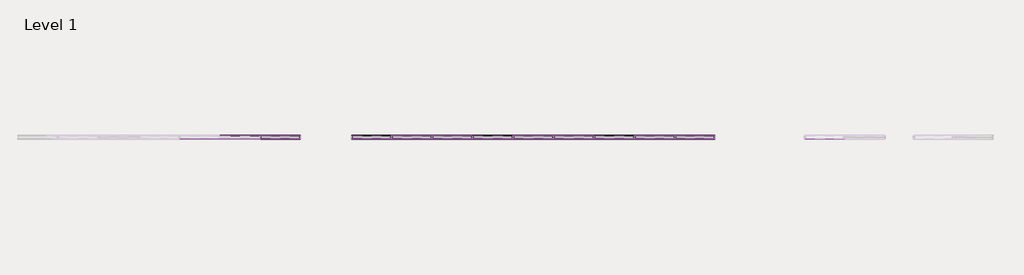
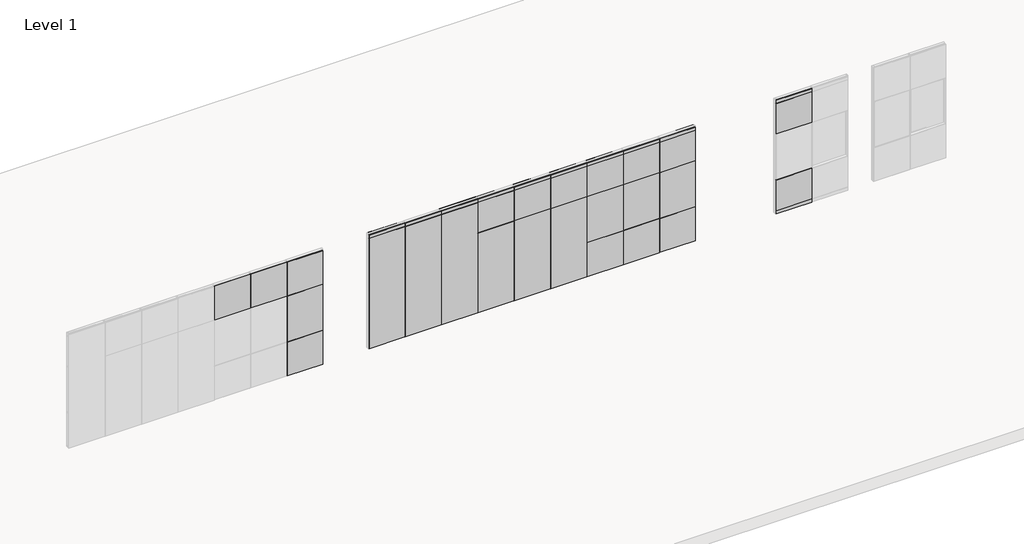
# One storey, part 10 of 22: 107 proxies.
"""IFC4 building model written with IfcOpenShell, lengths in millimetres."""

from ifc_helpers import new_model, si_unit, origin, place, context, project, spatial, transform, mapped, element, save
from components import fascia_teknion_ceiling_and_base_fpb1_836afdf3, fascia_teknion_ceiling_and_base_fpb1_3f1045f8, fascia_teknion_ceiling_and_base_fpb1_9cc94717, fascia_teknion_ceiling_and_base_fpb1_76749516, frame_teknion_horizontal_rail_5872ae1a, frame_teknion_horizontal_rail_46ee653b, level_ii_d92933f0, level_ii_d9937d3a, level_ii_c8f04d20, monolithic_level_i_c985bec4, monolithic_level_i_d7025d32, panel_fascia_teknion_level_i_3c7f3a23, panel_fascia_teknion_level_i_3efb392c, panel_fascia_teknion_level_iii_5cb2406b, panel_fascia_teknion_level_iii_b597021d, segmented_monolithic_level_i_26a9d159, segmented_monolithic_level_i_932c30e3, segmented_level_i_235b6383, segmented_monolithic_level_ii_ef75357c, level_iii_17d9b208, segmented_level_ii_6dac37f0, working_wall_monolithic_level_i_ddfac440, working_wall_monolithic_level_i_759ace73, working_wall_monolithic_level_i_53c92298, working_wall_monolithic_level_i_fab2ca40, level_i_c1e683c6, working_wall_monolithic_level_iii_b79156b4, level_iii_d208549f, level_iii_3557bc1e

model = new_model("IFC4")

# Units and contexts
model_context = context("Model", 3, world=origin())
ifc_project = project(units=[si_unit("LENGTHUNIT", "METRE", prefix="MILLI")], contexts=[model_context])

# Site, building, storey
site = spatial("IfcSite", under=ifc_project)
building = spatial("IfcBuilding", under=site)
storey = spatial("IfcBuildingStorey", under=building, Name="Level 1", Elevation=0.0)

# Proxies
placement = place(None, origin())
fascia_teknion_ceiling_and_base_fpb1_shape = fascia_teknion_ceiling_and_base_fpb1_836afdf3(model_context)
element("IfcBuildingElementProxy", 1, Name="Fascia-Teknion-Ceiling_and_Base : FPB1", ObjectType="Fascia-Teknion-Ceiling_and_Base : FPB1", at=placement, inside=storey, context=model_context, shape_type="MappedRepresentation", body=[
    mapped(fascia_teknion_ceiling_and_base_fpb1_shape, transform((-23828.6184902, 1762.344815, 15.875), x_axis=(1.0, 0.0, 0.0), y_axis=(0.0, 1.0, 0.0), z_axis=(0.0, 0.0, 1.0))),
])
fascia_teknion_ceiling_and_base_fpb1_2_shape = fascia_teknion_ceiling_and_base_fpb1_3f1045f8(model_context)
element("IfcBuildingElementProxy", 2, Name="Fascia-Teknion-Ceiling_and_Base : FPB1", ObjectType="Fascia-Teknion-Ceiling_and_Base : FPB1", at=placement, inside=storey, context=model_context, shape_type="MappedRepresentation", body=[
    mapped(fascia_teknion_ceiling_and_base_fpb1_2_shape, transform((-26761.682899, 1843.3402105, 15.875), x_axis=(-1.0, 0.0, 0.0), y_axis=(0.0, -1.0, 0.0), z_axis=(0.0, 0.0, 1.0))),
])
element("IfcBuildingElementProxy", 3, Name="Fascia-Teknion-Ceiling_and_Base : FPB1", ObjectType="Fascia-Teknion-Ceiling_and_Base : FPB1", at=placement, inside=storey, context=model_context, shape_type="MappedRepresentation", body=[
    mapped(fascia_teknion_ceiling_and_base_fpb1_2_shape, transform((-34062.8930552, 1843.3402105, 15.875), x_axis=(-1.0, 0.0, 0.0), y_axis=(0.0, -1.0, 0.0), z_axis=(0.0, 0.0, 1.0))),
])
fascia_teknion_ceiling_and_base_fpb1_3_shape = fascia_teknion_ceiling_and_base_fpb1_9cc94717(model_context)
element("IfcBuildingElementProxy", 4, Name="Fascia-Teknion-Ceiling_and_Base : FPB1", ObjectType="Fascia-Teknion-Ceiling_and_Base : FPB1", at=placement, inside=storey, context=model_context, shape_type="MappedRepresentation", body=[
    mapped(fascia_teknion_ceiling_and_base_fpb1_3_shape, transform((-33155.4879771, 1843.3402105, 15.875), x_axis=(-1.0, 0.0, 0.0), y_axis=(0.0, -1.0, 0.0), z_axis=(0.0, 0.0, 1.0))),
])
element("IfcBuildingElementProxy", 5, Name="Fascia-Teknion-Ceiling_and_Base : FPB1", ObjectType="Fascia-Teknion-Ceiling_and_Base : FPB1", at=placement, inside=storey, context=model_context, shape_type="MappedRepresentation", body=[
    mapped(fascia_teknion_ceiling_and_base_fpb1_3_shape, transform((-32241.0879771, 1843.3402105, 15.875), x_axis=(-1.0, 0.0, 0.0), y_axis=(0.0, -1.0, 0.0), z_axis=(0.0, 0.0, 1.0))),
])
element("IfcBuildingElementProxy", 6, Name="Fascia-Teknion-Ceiling_and_Base : FPB1", ObjectType="Fascia-Teknion-Ceiling_and_Base : FPB1", at=placement, inside=storey, context=model_context, shape_type="MappedRepresentation", body=[
    mapped(fascia_teknion_ceiling_and_base_fpb1_3_shape, transform((-30412.2879771, 1843.3402105, 15.875), x_axis=(-1.0, 0.0, 0.0), y_axis=(0.0, -1.0, 0.0), z_axis=(0.0, 0.0, 1.0))),
])
element("IfcBuildingElementProxy", 7, Name="Fascia-Teknion-Ceiling_and_Base : FPB1", ObjectType="Fascia-Teknion-Ceiling_and_Base : FPB1", at=placement, inside=storey, context=model_context, shape_type="MappedRepresentation", body=[
    mapped(fascia_teknion_ceiling_and_base_fpb1_3_shape, transform((-29497.8879771, 1843.3402105, 15.875), x_axis=(-1.0, 0.0, 0.0), y_axis=(0.0, -1.0, 0.0), z_axis=(0.0, 0.0, 1.0))),
])
element("IfcBuildingElementProxy", 8, Name="Fascia-Teknion-Ceiling_and_Base : FPB1", ObjectType="Fascia-Teknion-Ceiling_and_Base : FPB1", at=placement, inside=storey, context=model_context, shape_type="MappedRepresentation", body=[
    mapped(fascia_teknion_ceiling_and_base_fpb1_3_shape, transform((-27669.0879771, 1843.3402105, 15.875), x_axis=(-1.0, 0.0, 0.0), y_axis=(0.0, -1.0, 0.0), z_axis=(0.0, 0.0, 1.0))),
])
element("IfcBuildingElementProxy", 9, Name="Fascia-Teknion-Ceiling_and_Base : FPB1", ObjectType="Fascia-Teknion-Ceiling_and_Base : FPB1", at=placement, inside=storey, context=model_context, shape_type="MappedRepresentation", body=[
    mapped(fascia_teknion_ceiling_and_base_fpb1_3_shape, transform((-31326.6879771, 1843.3402105, 15.875), x_axis=(-1.0, 0.0, 0.0), y_axis=(0.0, -1.0, 0.0), z_axis=(0.0, 0.0, 1.0))),
])
element("IfcBuildingElementProxy", 10, Name="Fascia-Teknion-Ceiling_and_Base : FPB1", ObjectType="Fascia-Teknion-Ceiling_and_Base : FPB1", at=placement, inside=storey, context=model_context, shape_type="MappedRepresentation", body=[
    mapped(fascia_teknion_ceiling_and_base_fpb1_3_shape, transform((-28583.4879771, 1843.3402105, 15.875), x_axis=(-1.0, 0.0, 0.0), y_axis=(0.0, -1.0, 0.0), z_axis=(0.0, 0.0, 1.0))),
])
element("IfcBuildingElementProxy", 11, Name="Fascia-Teknion-Ceiling_and_Base : FPC", ObjectType="Fascia-Teknion-Ceiling_and_Base : FPC", at=placement, inside=storey, context=model_context, shape_type="MappedRepresentation", body=[
    mapped(fascia_teknion_ceiling_and_base_fpb1_shape, transform((-23828.6184902, 1762.344815, 2950.845), x_axis=(1.0, 0.0, 0.0), y_axis=(0.0, 1.0, 0.0), z_axis=(0.0, 0.0, 1.0))),
])
element("IfcBuildingElementProxy", 12, Name="Fascia-Teknion-Ceiling_and_Base : FPC", ObjectType="Fascia-Teknion-Ceiling_and_Base : FPC", at=placement, inside=storey, context=model_context, shape_type="MappedRepresentation", body=[
    mapped(fascia_teknion_ceiling_and_base_fpb1_3_shape, transform((-31326.6879771, 1781.3642105, 2950.845), x_axis=(1.0, 0.0, 0.0), y_axis=(0.0, 1.0, 0.0), z_axis=(0.0, 0.0, 1.0))),
])
element("IfcBuildingElementProxy", 13, Name="Fascia-Teknion-Ceiling_and_Base : FPC", ObjectType="Fascia-Teknion-Ceiling_and_Base : FPC", at=placement, inside=storey, context=model_context, shape_type="MappedRepresentation", body=[
    mapped(fascia_teknion_ceiling_and_base_fpb1_3_shape, transform((-30412.2879771, 1781.3642105, 2950.845), x_axis=(1.0, 0.0, 0.0), y_axis=(0.0, 1.0, 0.0), z_axis=(0.0, 0.0, 1.0))),
])
element("IfcBuildingElementProxy", 14, Name="Fascia-Teknion-Ceiling_and_Base : FPC", ObjectType="Fascia-Teknion-Ceiling_and_Base : FPC", at=placement, inside=storey, context=model_context, shape_type="MappedRepresentation", body=[
    mapped(fascia_teknion_ceiling_and_base_fpb1_3_shape, transform((-29497.8879771, 1781.3642105, 2950.845), x_axis=(1.0, 0.0, 0.0), y_axis=(0.0, 1.0, 0.0), z_axis=(0.0, 0.0, 1.0))),
])
element("IfcBuildingElementProxy", 15, Name="Fascia-Teknion-Ceiling_and_Base : FPC", ObjectType="Fascia-Teknion-Ceiling_and_Base : FPC", at=placement, inside=storey, context=model_context, shape_type="MappedRepresentation", body=[
    mapped(fascia_teknion_ceiling_and_base_fpb1_3_shape, transform((-28583.4879771, 1781.3642105, 2950.845), x_axis=(1.0, 0.0, 0.0), y_axis=(0.0, 1.0, 0.0), z_axis=(0.0, 0.0, 1.0))),
])
element("IfcBuildingElementProxy", 16, Name="Fascia-Teknion-Ceiling_and_Base : FPC", ObjectType="Fascia-Teknion-Ceiling_and_Base : FPC", at=placement, inside=storey, context=model_context, shape_type="MappedRepresentation", body=[
    mapped(fascia_teknion_ceiling_and_base_fpb1_3_shape, transform((-27669.0879771, 1781.3642105, 2950.845), x_axis=(1.0, 0.0, 0.0), y_axis=(0.0, 1.0, 0.0), z_axis=(0.0, 0.0, 1.0))),
])
element("IfcBuildingElementProxy", 17, Name="Fascia-Teknion-Ceiling_and_Base : FPC", ObjectType="Fascia-Teknion-Ceiling_and_Base : FPC", at=placement, inside=storey, context=model_context, shape_type="MappedRepresentation", body=[
    mapped(fascia_teknion_ceiling_and_base_fpb1_3_shape, transform((-33155.4879771, 1781.3642105, 2950.845), x_axis=(1.0, 0.0, 0.0), y_axis=(0.0, 1.0, 0.0), z_axis=(0.0, 0.0, 1.0))),
])
element("IfcBuildingElementProxy", 18, Name="Fascia-Teknion-Ceiling_and_Base : FPC", ObjectType="Fascia-Teknion-Ceiling_and_Base : FPC", at=placement, inside=storey, context=model_context, shape_type="MappedRepresentation", body=[
    mapped(fascia_teknion_ceiling_and_base_fpb1_3_shape, transform((-32241.0879771, 1781.3642105, 2950.845), x_axis=(1.0, 0.0, 0.0), y_axis=(0.0, 1.0, 0.0), z_axis=(0.0, 0.0, 1.0))),
])
fascia_teknion_ceiling_and_base_fpb1_4_shape = fascia_teknion_ceiling_and_base_fpb1_76749516(model_context)
element("IfcBuildingElementProxy", 19, Name="Fascia-Teknion-Ceiling_and_Base : FPC", ObjectType="Fascia-Teknion-Ceiling_and_Base : FPC", at=placement, inside=storey, context=model_context, shape_type="MappedRepresentation", body=[
    mapped(fascia_teknion_ceiling_and_base_fpb1_4_shape, transform((-36128.1636663, 1843.3402105, 2950.845), x_axis=(1.0, 0.0, 0.0), y_axis=(0.0, 1.0, 0.0), z_axis=(0.0, 0.0, 1.0))),
])
element("IfcBuildingElementProxy", 20, Name="Fascia-Teknion-Ceiling_and_Base : FPC", ObjectType="Fascia-Teknion-Ceiling_and_Base : FPC", at=placement, inside=storey, context=model_context, shape_type="MappedRepresentation", body=[
    mapped(fascia_teknion_ceiling_and_base_fpb1_2_shape, transform((-26761.682899, 1781.3642105, 2950.845), x_axis=(1.0, 0.0, 0.0), y_axis=(0.0, 1.0, 0.0), z_axis=(0.0, 0.0, 1.0))),
])
element("IfcBuildingElementProxy", 21, Name="Fascia-Teknion-Ceiling_and_Base : FPC", ObjectType="Fascia-Teknion-Ceiling_and_Base : FPC", at=placement, inside=storey, context=model_context, shape_type="MappedRepresentation", body=[
    mapped(fascia_teknion_ceiling_and_base_fpb1_2_shape, transform((-34062.8930552, 1781.3642105, 2950.845), x_axis=(1.0, 0.0, 0.0), y_axis=(0.0, 1.0, 0.0), z_axis=(0.0, 0.0, 1.0))),
])
frame_teknion_horizontal_rail_shape = frame_teknion_horizontal_rail_5872ae1a(model_context)
element("IfcBuildingElementProxy", 22, Name="Frame-Teknion-Horizontal_Rail : FPKK", ObjectType="Frame-Teknion-Horizontal_Rail : FPKK", at=placement, inside=storey, context=model_context, shape_type="MappedRepresentation", body=[
    mapped(frame_teknion_horizontal_rail_shape, transform((-23828.6184902, 1812.351065, 917.575), x_axis=(1.0, 0.0, 0.0), y_axis=(0.0, 1.0, 0.0), z_axis=(0.0, 0.0, 1.0))),
])
element("IfcBuildingElementProxy", 23, Name="Frame-Teknion-Horizontal_Rail : FPKK", ObjectType="Frame-Teknion-Horizontal_Rail : FPKK", at=placement, inside=storey, context=model_context, shape_type="MappedRepresentation", body=[
    mapped(frame_teknion_horizontal_rail_shape, transform((-23828.6184902, 1812.351065, 2136.775), x_axis=(1.0, 0.0, 0.0), y_axis=(0.0, 1.0, 0.0), z_axis=(0.0, 0.0, 1.0))),
])
element("IfcBuildingElementProxy", 24, Name="Frame-Teknion-Horizontal_Rail : FPKK", ObjectType="Frame-Teknion-Horizontal_Rail : FPKK", at=placement, inside=storey, context=model_context, shape_type="MappedRepresentation", body=[
    mapped(frame_teknion_horizontal_rail_shape, transform((-34062.8930552, 1812.3522105, 100.457), x_axis=(1.0, 0.0, 0.0), y_axis=(0.0, 1.0, 0.0), z_axis=(0.0, 0.0, 1.0))),
])
element("IfcBuildingElementProxy", 25, Name="Frame-Teknion-Horizontal_Rail : FPKK", ObjectType="Frame-Teknion-Horizontal_Rail : FPKK", at=placement, inside=storey, context=model_context, shape_type="MappedRepresentation", body=[
    mapped(frame_teknion_horizontal_rail_shape, transform((-34062.8930552, 1812.3522105, 2949.1305), x_axis=(1.0, 0.0, 0.0), y_axis=(0.0, 1.0, 0.0), z_axis=(0.0, 0.0, 1.0))),
])
element("IfcBuildingElementProxy", 26, Name="Frame-Teknion-Horizontal_Rail : FPKK", ObjectType="Frame-Teknion-Horizontal_Rail : FPKK", at=placement, inside=storey, context=model_context, shape_type="MappedRepresentation", body=[
    mapped(frame_teknion_horizontal_rail_shape, transform((-36128.1636663, 1812.3522105, 917.575), x_axis=(1.0, 0.0, 0.0), y_axis=(0.0, 1.0, 0.0), z_axis=(0.0, 0.0, 1.0))),
])
element("IfcBuildingElementProxy", 27, Name="Frame-Teknion-Horizontal_Rail : FPKK", ObjectType="Frame-Teknion-Horizontal_Rail : FPKK", at=placement, inside=storey, context=model_context, shape_type="MappedRepresentation", body=[
    mapped(frame_teknion_horizontal_rail_shape, transform((-36128.1636663, 1812.3522105, 2136.775), x_axis=(1.0, 0.0, 0.0), y_axis=(0.0, 1.0, 0.0), z_axis=(0.0, 0.0, 1.0))),
])
element("IfcBuildingElementProxy", 28, Name="Frame-Teknion-Horizontal_Rail : FPKK", ObjectType="Frame-Teknion-Horizontal_Rail : FPKK", at=placement, inside=storey, context=model_context, shape_type="MappedRepresentation", body=[
    mapped(frame_teknion_horizontal_rail_shape, transform((-36128.1636663, 1812.3522105, 2949.1305), x_axis=(1.0, 0.0, 0.0), y_axis=(0.0, 1.0, 0.0), z_axis=(0.0, 0.0, 1.0))),
])
element("IfcBuildingElementProxy", 29, Name="Frame-Teknion-Horizontal_Rail : FPKK", ObjectType="Frame-Teknion-Horizontal_Rail : FPKK", at=placement, inside=storey, context=model_context, shape_type="MappedRepresentation", body=[
    mapped(frame_teknion_horizontal_rail_shape, transform((-26761.682899, 1812.3522105, 917.575), x_axis=(1.0, 0.0, 0.0), y_axis=(0.0, 1.0, 0.0), z_axis=(0.0, 0.0, 1.0))),
])
element("IfcBuildingElementProxy", 30, Name="Frame-Teknion-Horizontal_Rail : FPKK", ObjectType="Frame-Teknion-Horizontal_Rail : FPKK", at=placement, inside=storey, context=model_context, shape_type="MappedRepresentation", body=[
    mapped(frame_teknion_horizontal_rail_shape, transform((-26761.682899, 1812.3522105, 2136.775), x_axis=(1.0, 0.0, 0.0), y_axis=(0.0, 1.0, 0.0), z_axis=(0.0, 0.0, 1.0))),
])
element("IfcBuildingElementProxy", 31, Name="Frame-Teknion-Horizontal_Rail : FPKK", ObjectType="Frame-Teknion-Horizontal_Rail : FPKK", at=placement, inside=storey, context=model_context, shape_type="MappedRepresentation", body=[
    mapped(frame_teknion_horizontal_rail_shape, transform((-26761.682899, 1812.3522105, 100.457), x_axis=(1.0, 0.0, 0.0), y_axis=(0.0, 1.0, 0.0), z_axis=(0.0, 0.0, 1.0))),
])
element("IfcBuildingElementProxy", 32, Name="Frame-Teknion-Horizontal_Rail : FPKK", ObjectType="Frame-Teknion-Horizontal_Rail : FPKK", at=placement, inside=storey, context=model_context, shape_type="MappedRepresentation", body=[
    mapped(frame_teknion_horizontal_rail_shape, transform((-26761.682899, 1812.3522105, 2949.1305), x_axis=(1.0, 0.0, 0.0), y_axis=(0.0, 1.0, 0.0), z_axis=(0.0, 0.0, 1.0))),
])
frame_teknion_horizontal_rail_2_shape = frame_teknion_horizontal_rail_46ee653b(model_context)
element("IfcBuildingElementProxy", 33, Name="Frame-Teknion-Horizontal_Rail : FPKK", ObjectType="Frame-Teknion-Horizontal_Rail : FPKK", at=placement, inside=storey, context=model_context, shape_type="MappedRepresentation", body=[
    mapped(frame_teknion_horizontal_rail_2_shape, transform((-33155.4879771, 1812.3522105, 2136.775), x_axis=(1.0, 0.0, 0.0), y_axis=(0.0, 1.0, 0.0), z_axis=(0.0, 0.0, 1.0))),
])
element("IfcBuildingElementProxy", 34, Name="Frame-Teknion-Horizontal_Rail : FPKK", ObjectType="Frame-Teknion-Horizontal_Rail : FPKK", at=placement, inside=storey, context=model_context, shape_type="MappedRepresentation", body=[
    mapped(frame_teknion_horizontal_rail_2_shape, transform((-33155.4879771, 1812.3522105, 100.457), x_axis=(1.0, 0.0, 0.0), y_axis=(0.0, 1.0, 0.0), z_axis=(0.0, 0.0, 1.0))),
])
element("IfcBuildingElementProxy", 35, Name="Frame-Teknion-Horizontal_Rail : FPKK", ObjectType="Frame-Teknion-Horizontal_Rail : FPKK", at=placement, inside=storey, context=model_context, shape_type="MappedRepresentation", body=[
    mapped(frame_teknion_horizontal_rail_2_shape, transform((-33155.4879771, 1812.3522105, 2949.1305), x_axis=(1.0, 0.0, 0.0), y_axis=(0.0, 1.0, 0.0), z_axis=(0.0, 0.0, 1.0))),
])
element("IfcBuildingElementProxy", 36, Name="Frame-Teknion-Horizontal_Rail : FPKK", ObjectType="Frame-Teknion-Horizontal_Rail : FPKK", at=placement, inside=storey, context=model_context, shape_type="MappedRepresentation", body=[
    mapped(frame_teknion_horizontal_rail_2_shape, transform((-32241.0879771, 1812.3522105, 917.575), x_axis=(1.0, 0.0, 0.0), y_axis=(0.0, 1.0, 0.0), z_axis=(0.0, 0.0, 1.0))),
])
element("IfcBuildingElementProxy", 37, Name="Frame-Teknion-Horizontal_Rail : FPKK", ObjectType="Frame-Teknion-Horizontal_Rail : FPKK", at=placement, inside=storey, context=model_context, shape_type="MappedRepresentation", body=[
    mapped(frame_teknion_horizontal_rail_2_shape, transform((-32241.0879771, 1812.3522105, 2136.775), x_axis=(1.0, 0.0, 0.0), y_axis=(0.0, 1.0, 0.0), z_axis=(0.0, 0.0, 1.0))),
])
element("IfcBuildingElementProxy", 38, Name="Frame-Teknion-Horizontal_Rail : FPKK", ObjectType="Frame-Teknion-Horizontal_Rail : FPKK", at=placement, inside=storey, context=model_context, shape_type="MappedRepresentation", body=[
    mapped(frame_teknion_horizontal_rail_2_shape, transform((-32241.0879771, 1812.3522105, 100.457), x_axis=(1.0, 0.0, 0.0), y_axis=(0.0, 1.0, 0.0), z_axis=(0.0, 0.0, 1.0))),
])
element("IfcBuildingElementProxy", 39, Name="Frame-Teknion-Horizontal_Rail : FPKK", ObjectType="Frame-Teknion-Horizontal_Rail : FPKK", at=placement, inside=storey, context=model_context, shape_type="MappedRepresentation", body=[
    mapped(frame_teknion_horizontal_rail_2_shape, transform((-32241.0879771, 1812.3522105, 2949.1305), x_axis=(1.0, 0.0, 0.0), y_axis=(0.0, 1.0, 0.0), z_axis=(0.0, 0.0, 1.0))),
])
element("IfcBuildingElementProxy", 40, Name="Frame-Teknion-Horizontal_Rail : FPKK", ObjectType="Frame-Teknion-Horizontal_Rail : FPKK", at=placement, inside=storey, context=model_context, shape_type="MappedRepresentation", body=[
    mapped(frame_teknion_horizontal_rail_2_shape, transform((-31326.6879771, 1812.3522105, 2136.775), x_axis=(1.0, 0.0, 0.0), y_axis=(0.0, 1.0, 0.0), z_axis=(0.0, 0.0, 1.0))),
])
element("IfcBuildingElementProxy", 41, Name="Frame-Teknion-Horizontal_Rail : FPKK", ObjectType="Frame-Teknion-Horizontal_Rail : FPKK", at=placement, inside=storey, context=model_context, shape_type="MappedRepresentation", body=[
    mapped(frame_teknion_horizontal_rail_2_shape, transform((-31326.6879771, 1812.3522105, 100.457), x_axis=(1.0, 0.0, 0.0), y_axis=(0.0, 1.0, 0.0), z_axis=(0.0, 0.0, 1.0))),
])
element("IfcBuildingElementProxy", 42, Name="Frame-Teknion-Horizontal_Rail : FPKK", ObjectType="Frame-Teknion-Horizontal_Rail : FPKK", at=placement, inside=storey, context=model_context, shape_type="MappedRepresentation", body=[
    mapped(frame_teknion_horizontal_rail_2_shape, transform((-31326.6879771, 1812.3522105, 2949.1305), x_axis=(1.0, 0.0, 0.0), y_axis=(0.0, 1.0, 0.0), z_axis=(0.0, 0.0, 1.0))),
])
element("IfcBuildingElementProxy", 43, Name="Frame-Teknion-Horizontal_Rail : FPKK", ObjectType="Frame-Teknion-Horizontal_Rail : FPKK", at=placement, inside=storey, context=model_context, shape_type="MappedRepresentation", body=[
    mapped(frame_teknion_horizontal_rail_2_shape, transform((-30412.2879771, 1812.3522105, 2136.775), x_axis=(1.0, 0.0, 0.0), y_axis=(0.0, 1.0, 0.0), z_axis=(0.0, 0.0, 1.0))),
])
element("IfcBuildingElementProxy", 44, Name="Frame-Teknion-Horizontal_Rail : FPKK", ObjectType="Frame-Teknion-Horizontal_Rail : FPKK", at=placement, inside=storey, context=model_context, shape_type="MappedRepresentation", body=[
    mapped(frame_teknion_horizontal_rail_2_shape, transform((-30412.2879771, 1812.3522105, 100.457), x_axis=(1.0, 0.0, 0.0), y_axis=(0.0, 1.0, 0.0), z_axis=(0.0, 0.0, 1.0))),
])
element("IfcBuildingElementProxy", 45, Name="Frame-Teknion-Horizontal_Rail : FPKK", ObjectType="Frame-Teknion-Horizontal_Rail : FPKK", at=placement, inside=storey, context=model_context, shape_type="MappedRepresentation", body=[
    mapped(frame_teknion_horizontal_rail_2_shape, transform((-30412.2879771, 1812.3522105, 2949.1305), x_axis=(1.0, 0.0, 0.0), y_axis=(0.0, 1.0, 0.0), z_axis=(0.0, 0.0, 1.0))),
])
element("IfcBuildingElementProxy", 46, Name="Frame-Teknion-Horizontal_Rail : FPKK", ObjectType="Frame-Teknion-Horizontal_Rail : FPKK", at=placement, inside=storey, context=model_context, shape_type="MappedRepresentation", body=[
    mapped(frame_teknion_horizontal_rail_2_shape, transform((-29497.8879771, 1812.3522105, 917.575), x_axis=(1.0, 0.0, 0.0), y_axis=(0.0, 1.0, 0.0), z_axis=(0.0, 0.0, 1.0))),
])
element("IfcBuildingElementProxy", 47, Name="Frame-Teknion-Horizontal_Rail : FPKK", ObjectType="Frame-Teknion-Horizontal_Rail : FPKK", at=placement, inside=storey, context=model_context, shape_type="MappedRepresentation", body=[
    mapped(frame_teknion_horizontal_rail_2_shape, transform((-29497.8879771, 1812.3522105, 2136.775), x_axis=(1.0, 0.0, 0.0), y_axis=(0.0, 1.0, 0.0), z_axis=(0.0, 0.0, 1.0))),
])
element("IfcBuildingElementProxy", 48, Name="Frame-Teknion-Horizontal_Rail : FPKK", ObjectType="Frame-Teknion-Horizontal_Rail : FPKK", at=placement, inside=storey, context=model_context, shape_type="MappedRepresentation", body=[
    mapped(frame_teknion_horizontal_rail_2_shape, transform((-29497.8879771, 1812.3522105, 100.457), x_axis=(1.0, 0.0, 0.0), y_axis=(0.0, 1.0, 0.0), z_axis=(0.0, 0.0, 1.0))),
])
element("IfcBuildingElementProxy", 49, Name="Frame-Teknion-Horizontal_Rail : FPKK", ObjectType="Frame-Teknion-Horizontal_Rail : FPKK", at=placement, inside=storey, context=model_context, shape_type="MappedRepresentation", body=[
    mapped(frame_teknion_horizontal_rail_2_shape, transform((-29497.8879771, 1812.3522105, 2949.1305), x_axis=(1.0, 0.0, 0.0), y_axis=(0.0, 1.0, 0.0), z_axis=(0.0, 0.0, 1.0))),
])
element("IfcBuildingElementProxy", 50, Name="Frame-Teknion-Horizontal_Rail : FPKK", ObjectType="Frame-Teknion-Horizontal_Rail : FPKK", at=placement, inside=storey, context=model_context, shape_type="MappedRepresentation", body=[
    mapped(frame_teknion_horizontal_rail_2_shape, transform((-28583.4879771, 1812.3522105, 917.575), x_axis=(1.0, 0.0, 0.0), y_axis=(0.0, 1.0, 0.0), z_axis=(0.0, 0.0, 1.0))),
])
element("IfcBuildingElementProxy", 51, Name="Frame-Teknion-Horizontal_Rail : FPKK", ObjectType="Frame-Teknion-Horizontal_Rail : FPKK", at=placement, inside=storey, context=model_context, shape_type="MappedRepresentation", body=[
    mapped(frame_teknion_horizontal_rail_2_shape, transform((-28583.4879771, 1812.3522105, 2136.775), x_axis=(1.0, 0.0, 0.0), y_axis=(0.0, 1.0, 0.0), z_axis=(0.0, 0.0, 1.0))),
])
element("IfcBuildingElementProxy", 52, Name="Frame-Teknion-Horizontal_Rail : FPKK", ObjectType="Frame-Teknion-Horizontal_Rail : FPKK", at=placement, inside=storey, context=model_context, shape_type="MappedRepresentation", body=[
    mapped(frame_teknion_horizontal_rail_2_shape, transform((-28583.4879771, 1812.3522105, 100.457), x_axis=(1.0, 0.0, 0.0), y_axis=(0.0, 1.0, 0.0), z_axis=(0.0, 0.0, 1.0))),
])
element("IfcBuildingElementProxy", 53, Name="Frame-Teknion-Horizontal_Rail : FPKK", ObjectType="Frame-Teknion-Horizontal_Rail : FPKK", at=placement, inside=storey, context=model_context, shape_type="MappedRepresentation", body=[
    mapped(frame_teknion_horizontal_rail_2_shape, transform((-28583.4879771, 1812.3522105, 2949.1305), x_axis=(1.0, 0.0, 0.0), y_axis=(0.0, 1.0, 0.0), z_axis=(0.0, 0.0, 1.0))),
])
element("IfcBuildingElementProxy", 54, Name="Frame-Teknion-Horizontal_Rail : FPKK", ObjectType="Frame-Teknion-Horizontal_Rail : FPKK", at=placement, inside=storey, context=model_context, shape_type="MappedRepresentation", body=[
    mapped(frame_teknion_horizontal_rail_2_shape, transform((-27669.0879771, 1812.3522105, 917.575), x_axis=(1.0, 0.0, 0.0), y_axis=(0.0, 1.0, 0.0), z_axis=(0.0, 0.0, 1.0))),
])
element("IfcBuildingElementProxy", 55, Name="Frame-Teknion-Horizontal_Rail : FPKK", ObjectType="Frame-Teknion-Horizontal_Rail : FPKK", at=placement, inside=storey, context=model_context, shape_type="MappedRepresentation", body=[
    mapped(frame_teknion_horizontal_rail_2_shape, transform((-27669.0879771, 1812.3522105, 2136.775), x_axis=(1.0, 0.0, 0.0), y_axis=(0.0, 1.0, 0.0), z_axis=(0.0, 0.0, 1.0))),
])
element("IfcBuildingElementProxy", 56, Name="Frame-Teknion-Horizontal_Rail : FPKK", ObjectType="Frame-Teknion-Horizontal_Rail : FPKK", at=placement, inside=storey, context=model_context, shape_type="MappedRepresentation", body=[
    mapped(frame_teknion_horizontal_rail_2_shape, transform((-27669.0879771, 1812.3522105, 100.457), x_axis=(1.0, 0.0, 0.0), y_axis=(0.0, 1.0, 0.0), z_axis=(0.0, 0.0, 1.0))),
])
element("IfcBuildingElementProxy", 57, Name="Frame-Teknion-Horizontal_Rail : FPKK", ObjectType="Frame-Teknion-Horizontal_Rail : FPKK", at=placement, inside=storey, context=model_context, shape_type="MappedRepresentation", body=[
    mapped(frame_teknion_horizontal_rail_2_shape, transform((-27669.0879771, 1812.3522105, 2949.1305), x_axis=(1.0, 0.0, 0.0), y_axis=(0.0, 1.0, 0.0), z_axis=(0.0, 0.0, 1.0))),
])
level_ii_shape = level_ii_d92933f0(model_context)
element("IfcBuildingElementProxy", 58, Name="Panel-Fascia-Teknion-Altos-Standard : Level II", ObjectType="Panel-Fascia-Teknion-Altos-Standard : Level II", at=placement, inside=storey, context=model_context, shape_type="MappedRepresentation", body=[
    mapped(level_ii_shape, transform((-36128.1636663, 1852.8652105, 917.575), x_axis=(1.0, 0.0, 0.0), y_axis=(0.0, 1.0, 0.0), z_axis=(0.0, 0.0, 1.0))),
])
level_ii_2_shape = level_ii_d9937d3a(model_context)
element("IfcBuildingElementProxy", 59, Name="Panel-Fascia-Teknion-Altos-Standard : Level II", ObjectType="Panel-Fascia-Teknion-Altos-Standard : Level II", at=placement, inside=storey, context=model_context, shape_type="MappedRepresentation", body=[
    mapped(level_ii_2_shape, transform((-36128.1636663, 1771.8392105, 917.575), x_axis=(1.0, 0.0, 0.0), y_axis=(0.0, 1.0, 0.0), z_axis=(0.0, 0.0, 1.0))),
])
element("IfcBuildingElementProxy", 60, Name="Panel-Fascia-Teknion-Altos-Standard : Level II", ObjectType="Panel-Fascia-Teknion-Altos-Standard : Level II", at=placement, inside=storey, context=model_context, shape_type="MappedRepresentation", body=[
    mapped(level_ii_2_shape, transform((-26761.682899, 1771.8392105, 917.575), x_axis=(1.0, 0.0, 0.0), y_axis=(0.0, 1.0, 0.0), z_axis=(0.0, 0.0, 1.0))),
])
element("IfcBuildingElementProxy", 61, Name="Panel-Fascia-Teknion-Altos-Standard : Level II", ObjectType="Panel-Fascia-Teknion-Altos-Standard : Level II", at=placement, inside=storey, context=model_context, shape_type="MappedRepresentation", body=[
    mapped(level_ii_2_shape, transform((-26761.682899, 1852.8652105, 917.575), x_axis=(-1.0, 0.0, 0.0), y_axis=(0.0, -1.0, 0.0), z_axis=(0.0, 0.0, 1.0))),
])
level_ii_3_shape = level_ii_c8f04d20(model_context)
element("IfcBuildingElementProxy", 62, Name="Panel-Fascia-Teknion-Altos-Standard : Level II", ObjectType="Panel-Fascia-Teknion-Altos-Standard : Level II", at=placement, inside=storey, context=model_context, shape_type="MappedRepresentation", body=[
    mapped(level_ii_3_shape, transform((-27669.0879771, 1771.8392105, 917.575), x_axis=(1.0, 0.0, 0.0), y_axis=(0.0, 1.0, 0.0), z_axis=(0.0, 0.0, 1.0))),
])
element("IfcBuildingElementProxy", 63, Name="Panel-Fascia-Teknion-Altos-Standard : Level II", ObjectType="Panel-Fascia-Teknion-Altos-Standard : Level II", at=placement, inside=storey, context=model_context, shape_type="MappedRepresentation", body=[
    mapped(level_ii_3_shape, transform((-32241.0879771, 1852.8652105, 917.575), x_axis=(-1.0, 0.0, 0.0), y_axis=(0.0, -1.0, 0.0), z_axis=(0.0, 0.0, 1.0))),
])
element("IfcBuildingElementProxy", 64, Name="Panel-Fascia-Teknion-Altos-Standard : Level II", ObjectType="Panel-Fascia-Teknion-Altos-Standard : Level II", at=placement, inside=storey, context=model_context, shape_type="MappedRepresentation", body=[
    mapped(level_ii_3_shape, transform((-29497.8879771, 1852.8652105, 917.575), x_axis=(-1.0, 0.0, 0.0), y_axis=(0.0, -1.0, 0.0), z_axis=(0.0, 0.0, 1.0))),
])
element("IfcBuildingElementProxy", 65, Name="Panel-Fascia-Teknion-Altos-Standard : Level II", ObjectType="Panel-Fascia-Teknion-Altos-Standard : Level II", at=placement, inside=storey, context=model_context, shape_type="MappedRepresentation", body=[
    mapped(level_ii_3_shape, transform((-28583.4879771, 1771.8392105, 917.575), x_axis=(1.0, 0.0, 0.0), y_axis=(0.0, 1.0, 0.0), z_axis=(0.0, 0.0, 1.0))),
])
monolithic_level_i_shape = monolithic_level_i_c985bec4(model_context)
element("IfcBuildingElementProxy", 66, Name="Panel-Fascia-Teknion-Altos-Standard : Monolithic Level I", ObjectType="Panel-Fascia-Teknion-Altos-Standard : Monolithic Level I", at=placement, inside=storey, context=model_context, shape_type="MappedRepresentation", body=[
    mapped(monolithic_level_i_shape, transform((-34062.8930552, 1771.8392105, 12.7), x_axis=(1.0, 0.0, 0.0), y_axis=(0.0, 1.0, 0.0), z_axis=(0.0, 0.0, 1.0))),
])
element("IfcBuildingElementProxy", 67, Name="Panel-Fascia-Teknion-Altos-Standard : Monolithic Level I", ObjectType="Panel-Fascia-Teknion-Altos-Standard : Monolithic Level I", at=placement, inside=storey, context=model_context, shape_type="MappedRepresentation", body=[
    mapped(monolithic_level_i_shape, transform((-34062.8930552, 1852.8652105, 100.457), x_axis=(-1.0, 0.0, 0.0), y_axis=(0.0, -1.0, 0.0), z_axis=(0.0, 0.0, 1.0))),
])
monolithic_level_i_2_shape = monolithic_level_i_d7025d32(model_context)
element("IfcBuildingElementProxy", 68, Name="Panel-Fascia-Teknion-Altos-Standard : Monolithic Level I", ObjectType="Panel-Fascia-Teknion-Altos-Standard : Monolithic Level I", at=placement, inside=storey, context=model_context, shape_type="MappedRepresentation", body=[
    mapped(monolithic_level_i_2_shape, transform((-33155.4879771, 1771.8392105, 12.7), x_axis=(1.0, 0.0, 0.0), y_axis=(0.0, 1.0, 0.0), z_axis=(0.0, 0.0, 1.0))),
])
element("IfcBuildingElementProxy", 69, Name="Panel-Fascia-Teknion-Altos-Standard : Monolithic Level I", ObjectType="Panel-Fascia-Teknion-Altos-Standard : Monolithic Level I", at=placement, inside=storey, context=model_context, shape_type="MappedRepresentation", body=[
    mapped(monolithic_level_i_2_shape, transform((-32241.0879771, 1771.8392105, 12.7), x_axis=(1.0, 0.0, 0.0), y_axis=(0.0, 1.0, 0.0), z_axis=(0.0, 0.0, 1.0))),
])
element("IfcBuildingElementProxy", 70, Name="Panel-Fascia-Teknion-Altos-Standard : Monolithic Level I", ObjectType="Panel-Fascia-Teknion-Altos-Standard : Monolithic Level I", at=placement, inside=storey, context=model_context, shape_type="MappedRepresentation", body=[
    mapped(monolithic_level_i_2_shape, transform((-31326.6879771, 1852.8652105, 100.457), x_axis=(-1.0, 0.0, 0.0), y_axis=(0.0, -1.0, 0.0), z_axis=(0.0, 0.0, 1.0))),
])
element("IfcBuildingElementProxy", 71, Name="Panel-Fascia-Teknion-Altos-Standard : Monolithic Level I", ObjectType="Panel-Fascia-Teknion-Altos-Standard : Monolithic Level I", at=placement, inside=storey, context=model_context, shape_type="MappedRepresentation", body=[
    mapped(monolithic_level_i_2_shape, transform((-28583.4879771, 1852.8652105, 100.457), x_axis=(-1.0, 0.0, 0.0), y_axis=(0.0, -1.0, 0.0), z_axis=(0.0, 0.0, 1.0))),
])
panel_fascia_teknion_level_i_shape = panel_fascia_teknion_level_i_3c7f3a23(model_context)
element("IfcBuildingElementProxy", 72, Name="Panel-Fascia-Teknion : Level I", ObjectType="Panel-Fascia-Teknion : Level I", at=placement, inside=storey, context=model_context, shape_type="MappedRepresentation", body=[
    mapped(panel_fascia_teknion_level_i_shape, transform((-23828.6184902, 1771.869815, 100.457), x_axis=(1.0, 0.0, 0.0), y_axis=(0.0, 1.0, 0.0), z_axis=(0.0, 0.0, 1.0))),
])
panel_fascia_teknion_level_i_2_shape = panel_fascia_teknion_level_i_3efb392c(model_context)
element("IfcBuildingElementProxy", 73, Name="Panel-Fascia-Teknion : Level I", ObjectType="Panel-Fascia-Teknion : Level I", at=placement, inside=storey, context=model_context, shape_type="MappedRepresentation", body=[
    mapped(panel_fascia_teknion_level_i_2_shape, transform((-23828.6184902, 1852.832315, 100.457), x_axis=(1.0, 0.0, 0.0), y_axis=(0.0, 1.0, 0.0), z_axis=(0.0, 0.0, 1.0))),
])
panel_fascia_teknion_level_iii_shape = panel_fascia_teknion_level_iii_5cb2406b(model_context)
element("IfcBuildingElementProxy", 74, Name="Panel-Fascia-Teknion : Level III", ObjectType="Panel-Fascia-Teknion : Level III", at=placement, inside=storey, context=model_context, shape_type="MappedRepresentation", body=[
    mapped(panel_fascia_teknion_level_iii_shape, transform((-23828.6184902, 1771.869815, 2136.775), x_axis=(1.0, 0.0, 0.0), y_axis=(0.0, 1.0, 0.0), z_axis=(0.0, 0.0, 1.0))),
])
panel_fascia_teknion_level_iii_2_shape = panel_fascia_teknion_level_iii_b597021d(model_context)
element("IfcBuildingElementProxy", 75, Name="Panel-Fascia-Teknion : Level III", ObjectType="Panel-Fascia-Teknion : Level III", at=placement, inside=storey, context=model_context, shape_type="MappedRepresentation", body=[
    mapped(panel_fascia_teknion_level_iii_2_shape, transform((-23828.6184902, 1852.832315, 2136.775), x_axis=(1.0, 0.0, 0.0), y_axis=(0.0, 1.0, 0.0), z_axis=(0.0, 0.0, 1.0))),
])
segmented_monolithic_level_i_shape = segmented_monolithic_level_i_26a9d159(model_context)
element("IfcBuildingElementProxy", 76, Name="Panel-Fascia-Teknion-Altos-Standard : Segmented Monolithic Level I", ObjectType="Panel-Fascia-Teknion-Altos-Standard : Segmented Monolithic Level I", at=placement, inside=storey, context=model_context, shape_type="MappedRepresentation", body=[
    mapped(segmented_monolithic_level_i_shape, transform((-30412.2879771, 1771.8392105, 12.7), x_axis=(1.0, 0.0, 0.0), y_axis=(0.0, 1.0, 0.0), z_axis=(0.0, 0.0, 1.0))),
])
element("IfcBuildingElementProxy", 77, Name="Panel-Fascia-Teknion-Altos-Standard : Segmented Monolithic Level I", ObjectType="Panel-Fascia-Teknion-Altos-Standard : Segmented Monolithic Level I", at=placement, inside=storey, context=model_context, shape_type="MappedRepresentation", body=[
    mapped(segmented_monolithic_level_i_shape, transform((-29497.8879771, 1771.8392105, 12.7), x_axis=(1.0, 0.0, 0.0), y_axis=(0.0, 1.0, 0.0), z_axis=(0.0, 0.0, 1.0))),
])
element("IfcBuildingElementProxy", 78, Name="Panel-Fascia-Teknion-Altos-Standard : Segmented Monolithic Level I", ObjectType="Panel-Fascia-Teknion-Altos-Standard : Segmented Monolithic Level I", at=placement, inside=storey, context=model_context, shape_type="MappedRepresentation", body=[
    mapped(segmented_monolithic_level_i_shape, transform((-31326.6879771, 1771.8392105, 12.7), x_axis=(1.0, 0.0, 0.0), y_axis=(0.0, 1.0, 0.0), z_axis=(0.0, 0.0, 1.0))),
])
segmented_monolithic_level_i_2_shape = segmented_monolithic_level_i_932c30e3(model_context)
element("IfcBuildingElementProxy", 79, Name="Panel-Fascia-Teknion-Altos-Standard : Segmented Monolithic Level I", ObjectType="Panel-Fascia-Teknion-Altos-Standard : Segmented Monolithic Level I", at=placement, inside=storey, context=model_context, shape_type="MappedRepresentation", body=[
    mapped(segmented_monolithic_level_i_2_shape, transform((-37035.5687444, 1852.8652105, 12.7), x_axis=(1.0, 0.0, 0.0), y_axis=(0.0, 1.0, 0.0), z_axis=(0.0, 0.0, 1.0))),
])
segmented_level_i_shape = segmented_level_i_235b6383(model_context)
element("IfcBuildingElementProxy", 80, Name="Panel-Fascia-Teknion-Altos-Standard : Segmented Monolithic Level I", ObjectType="Panel-Fascia-Teknion-Altos-Standard : Segmented Monolithic Level I", at=placement, inside=storey, context=model_context, shape_type="MappedRepresentation", body=[
    mapped(segmented_level_i_shape, transform((-33155.4879771, 1852.8652105, 100.457), x_axis=(-1.0, 0.0, 0.0), y_axis=(0.0, -1.0, 0.0), z_axis=(0.0, 0.0, 1.0))),
])
element("IfcBuildingElementProxy", 81, Name="Panel-Fascia-Teknion-Altos-Standard : Segmented Monolithic Level I", ObjectType="Panel-Fascia-Teknion-Altos-Standard : Segmented Monolithic Level I", at=placement, inside=storey, context=model_context, shape_type="MappedRepresentation", body=[
    mapped(segmented_level_i_shape, transform((-30412.2879771, 1852.8652105, 100.457), x_axis=(-1.0, 0.0, 0.0), y_axis=(0.0, -1.0, 0.0), z_axis=(0.0, 0.0, 1.0))),
])
element("IfcBuildingElementProxy", 82, Name="Panel-Fascia-Teknion-Altos-Standard : Segmented Monolithic Level I", ObjectType="Panel-Fascia-Teknion-Altos-Standard : Segmented Monolithic Level I", at=placement, inside=storey, context=model_context, shape_type="MappedRepresentation", body=[
    mapped(segmented_level_i_shape, transform((-27669.0879771, 1852.8652105, 100.457), x_axis=(-1.0, 0.0, 0.0), y_axis=(0.0, -1.0, 0.0), z_axis=(0.0, 0.0, 1.0))),
])
segmented_monolithic_level_ii_shape = segmented_monolithic_level_ii_ef75357c(model_context)
element("IfcBuildingElementProxy", 83, Name="Panel-Fascia-Teknion-Altos-Standard : Segmented Monolithic Level II", ObjectType="Panel-Fascia-Teknion-Altos-Standard : Segmented Monolithic Level II", at=placement, inside=storey, context=model_context, shape_type="MappedRepresentation", body=[
    mapped(segmented_monolithic_level_ii_shape, transform((-33155.4879771, 1852.8652105, 2136.775), x_axis=(-1.0, 0.0, 0.0), y_axis=(0.0, -1.0, 0.0), z_axis=(0.0, 0.0, 1.0))),
])
element("IfcBuildingElementProxy", 84, Name="Panel-Fascia-Teknion-Altos-Standard : Segmented Monolithic Level II", ObjectType="Panel-Fascia-Teknion-Altos-Standard : Segmented Monolithic Level II", at=placement, inside=storey, context=model_context, shape_type="MappedRepresentation", body=[
    mapped(segmented_monolithic_level_ii_shape, transform((-30412.2879771, 1852.8652105, 2136.775), x_axis=(-1.0, 0.0, 0.0), y_axis=(0.0, -1.0, 0.0), z_axis=(0.0, 0.0, 1.0))),
])
element("IfcBuildingElementProxy", 85, Name="Panel-Fascia-Teknion-Altos-Standard : Segmented Monolithic Level II", ObjectType="Panel-Fascia-Teknion-Altos-Standard : Segmented Monolithic Level II", at=placement, inside=storey, context=model_context, shape_type="MappedRepresentation", body=[
    mapped(segmented_monolithic_level_ii_shape, transform((-27669.0879771, 1852.8652105, 2136.775), x_axis=(-1.0, 0.0, 0.0), y_axis=(0.0, -1.0, 0.0), z_axis=(0.0, 0.0, 1.0))),
])
level_iii_shape = level_iii_17d9b208(model_context)
element("IfcBuildingElementProxy", 86, Name="Panel-Fascia-Teknion-Altos-Standard : Segmented Monolithic Level II", ObjectType="Panel-Fascia-Teknion-Altos-Standard : Segmented Monolithic Level II", at=placement, inside=storey, context=model_context, shape_type="MappedRepresentation", body=[
    mapped(level_iii_shape, transform((-37035.5687444, 1852.8652105, 2136.775), x_axis=(1.0, 0.0, 0.0), y_axis=(0.0, 1.0, 0.0), z_axis=(0.0, 0.0, 1.0))),
])
segmented_level_ii_shape = segmented_level_ii_6dac37f0(model_context)
element("IfcBuildingElementProxy", 87, Name="Panel-Fascia-Teknion-Altos-Standard : Segmented Monolithic Level II", ObjectType="Panel-Fascia-Teknion-Altos-Standard : Segmented Monolithic Level II", at=placement, inside=storey, context=model_context, shape_type="MappedRepresentation", body=[
    mapped(segmented_level_ii_shape, transform((-29497.8879771, 1771.8392105, 2136.775), x_axis=(1.0, 0.0, 0.0), y_axis=(0.0, 1.0, 0.0), z_axis=(0.0, 0.0, 1.0))),
])
element("IfcBuildingElementProxy", 88, Name="Panel-Fascia-Teknion-Altos-Standard : Segmented Monolithic Level II", ObjectType="Panel-Fascia-Teknion-Altos-Standard : Segmented Monolithic Level II", at=placement, inside=storey, context=model_context, shape_type="MappedRepresentation", body=[
    mapped(segmented_level_ii_shape, transform((-31326.6879771, 1771.8392105, 2136.775), x_axis=(1.0, 0.0, 0.0), y_axis=(0.0, 1.0, 0.0), z_axis=(0.0, 0.0, 1.0))),
])
element("IfcBuildingElementProxy", 89, Name="Panel-Fascia-Teknion-Altos-Standard : Segmented Monolithic Level II", ObjectType="Panel-Fascia-Teknion-Altos-Standard : Segmented Monolithic Level II", at=placement, inside=storey, context=model_context, shape_type="MappedRepresentation", body=[
    mapped(segmented_level_ii_shape, transform((-30412.2879771, 1771.8392105, 2136.775), x_axis=(1.0, 0.0, 0.0), y_axis=(0.0, 1.0, 0.0), z_axis=(0.0, 0.0, 1.0))),
])
working_wall_monolithic_level_i_shape = working_wall_monolithic_level_i_ddfac440(model_context)
element("IfcBuildingElementProxy", 90, Name="Panel-Fascia-Teknion-Altos-Standard : Working Wall Monolithic Level I", ObjectType="Panel-Fascia-Teknion-Altos-Standard : Working Wall Monolithic Level I", at=placement, inside=storey, context=model_context, shape_type="MappedRepresentation", body=[
    mapped(working_wall_monolithic_level_i_shape, transform((-27669.0879771, 1771.8392105, 12.7), x_axis=(1.0, 0.0, 0.0), y_axis=(0.0, 1.0, 0.0), z_axis=(0.0, 0.0, 1.0))),
])
element("IfcBuildingElementProxy", 91, Name="Panel-Fascia-Teknion-Altos-Standard : Working Wall Monolithic Level I", ObjectType="Panel-Fascia-Teknion-Altos-Standard : Working Wall Monolithic Level I", at=placement, inside=storey, context=model_context, shape_type="MappedRepresentation", body=[
    mapped(working_wall_monolithic_level_i_shape, transform((-28583.4879771, 1771.8392105, 12.7), x_axis=(1.0, 0.0, 0.0), y_axis=(0.0, 1.0, 0.0), z_axis=(0.0, 0.0, 1.0))),
])
working_wall_monolithic_level_i_2_shape = working_wall_monolithic_level_i_759ace73(model_context)
element("IfcBuildingElementProxy", 92, Name="Panel-Fascia-Teknion-Altos-Standard : Working Wall Monolithic Level I", ObjectType="Panel-Fascia-Teknion-Altos-Standard : Working Wall Monolithic Level I", at=placement, inside=storey, context=model_context, shape_type="MappedRepresentation", body=[
    mapped(working_wall_monolithic_level_i_2_shape, transform((-36128.1636663, 1771.8392105, 12.7), x_axis=(1.0, 0.0, 0.0), y_axis=(0.0, 1.0, 0.0), z_axis=(0.0, 0.0, 1.0))),
])
element("IfcBuildingElementProxy", 93, Name="Panel-Fascia-Teknion-Altos-Standard : Working Wall Monolithic Level I", ObjectType="Panel-Fascia-Teknion-Altos-Standard : Working Wall Monolithic Level I", at=placement, inside=storey, context=model_context, shape_type="MappedRepresentation", body=[
    mapped(working_wall_monolithic_level_i_2_shape, transform((-26761.682899, 1771.8392105, 12.7), x_axis=(1.0, 0.0, 0.0), y_axis=(0.0, 1.0, 0.0), z_axis=(0.0, 0.0, 1.0))),
])
working_wall_monolithic_level_i_3_shape = working_wall_monolithic_level_i_53c92298(model_context)
element("IfcBuildingElementProxy", 94, Name="Panel-Fascia-Teknion-Altos-Standard : Working Wall Monolithic Level I", ObjectType="Panel-Fascia-Teknion-Altos-Standard : Working Wall Monolithic Level I", at=placement, inside=storey, context=model_context, shape_type="MappedRepresentation", body=[
    mapped(working_wall_monolithic_level_i_3_shape, transform((-36128.1636663, 1852.8652105, 12.7), x_axis=(1.0, 0.0, 0.0), y_axis=(0.0, 1.0, 0.0), z_axis=(0.0, 0.0, 1.0))),
])
working_wall_monolithic_level_i_4_shape = working_wall_monolithic_level_i_fab2ca40(model_context)
element("IfcBuildingElementProxy", 95, Name="Panel-Fascia-Teknion-Altos-Standard : Working Wall Monolithic Level I", ObjectType="Panel-Fascia-Teknion-Altos-Standard : Working Wall Monolithic Level I", at=placement, inside=storey, context=model_context, shape_type="MappedRepresentation", body=[
    mapped(working_wall_monolithic_level_i_4_shape, transform((-32241.0879771, 1852.8652105, 100.457), x_axis=(-1.0, 0.0, 0.0), y_axis=(0.0, -1.0, 0.0), z_axis=(0.0, 0.0, 1.0))),
])
element("IfcBuildingElementProxy", 96, Name="Panel-Fascia-Teknion-Altos-Standard : Working Wall Monolithic Level I", ObjectType="Panel-Fascia-Teknion-Altos-Standard : Working Wall Monolithic Level I", at=placement, inside=storey, context=model_context, shape_type="MappedRepresentation", body=[
    mapped(working_wall_monolithic_level_i_4_shape, transform((-29497.8879771, 1852.8652105, 100.457), x_axis=(-1.0, 0.0, 0.0), y_axis=(0.0, -1.0, 0.0), z_axis=(0.0, 0.0, 1.0))),
])
level_i_shape = level_i_c1e683c6(model_context)
element("IfcBuildingElementProxy", 97, Name="Panel-Fascia-Teknion-Altos-Standard : Working Wall Monolithic Level I", ObjectType="Panel-Fascia-Teknion-Altos-Standard : Working Wall Monolithic Level I", at=placement, inside=storey, context=model_context, shape_type="MappedRepresentation", body=[
    mapped(level_i_shape, transform((-26761.682899, 1852.8652105, 100.457), x_axis=(-1.0, 0.0, 0.0), y_axis=(0.0, -1.0, 0.0), z_axis=(0.0, 0.0, 1.0))),
])
element("IfcBuildingElementProxy", 98, Name="Panel-Fascia-Teknion-Altos-Standard : Working Wall Monolithic Level III", ObjectType="Panel-Fascia-Teknion-Altos-Standard : Working Wall Monolithic Level III", at=placement, inside=storey, context=model_context, shape_type="MappedRepresentation", body=[
    mapped(segmented_monolithic_level_ii_shape, transform((-37949.9687444, 1771.8392105, 2136.775), x_axis=(1.0, 0.0, 0.0), y_axis=(0.0, 1.0, 0.0), z_axis=(0.0, 0.0, 1.0))),
])
element("IfcBuildingElementProxy", 99, Name="Panel-Fascia-Teknion-Altos-Standard : Working Wall Monolithic Level III", ObjectType="Panel-Fascia-Teknion-Altos-Standard : Working Wall Monolithic Level III", at=placement, inside=storey, context=model_context, shape_type="MappedRepresentation", body=[
    mapped(segmented_monolithic_level_ii_shape, transform((-37035.5687444, 1771.8392105, 2136.775), x_axis=(1.0, 0.0, 0.0), y_axis=(0.0, 1.0, 0.0), z_axis=(0.0, 0.0, 1.0))),
])
element("IfcBuildingElementProxy", 100, Name="Panel-Fascia-Teknion-Altos-Standard : Working Wall Monolithic Level III", ObjectType="Panel-Fascia-Teknion-Altos-Standard : Working Wall Monolithic Level III", at=placement, inside=storey, context=model_context, shape_type="MappedRepresentation", body=[
    mapped(segmented_monolithic_level_ii_shape, transform((-32241.0879771, 1852.8652105, 2136.775), x_axis=(-1.0, 0.0, 0.0), y_axis=(0.0, -1.0, 0.0), z_axis=(0.0, 0.0, 1.0))),
])
element("IfcBuildingElementProxy", 101, Name="Panel-Fascia-Teknion-Altos-Standard : Working Wall Monolithic Level III", ObjectType="Panel-Fascia-Teknion-Altos-Standard : Working Wall Monolithic Level III", at=placement, inside=storey, context=model_context, shape_type="MappedRepresentation", body=[
    mapped(segmented_monolithic_level_ii_shape, transform((-29497.8879771, 1852.8652105, 2136.775), x_axis=(-1.0, 0.0, 0.0), y_axis=(0.0, -1.0, 0.0), z_axis=(0.0, 0.0, 1.0))),
])
working_wall_monolithic_level_iii_shape = working_wall_monolithic_level_iii_b79156b4(model_context)
element("IfcBuildingElementProxy", 102, Name="Panel-Fascia-Teknion-Altos-Standard : Working Wall Monolithic Level III", ObjectType="Panel-Fascia-Teknion-Altos-Standard : Working Wall Monolithic Level III", at=placement, inside=storey, context=model_context, shape_type="MappedRepresentation", body=[
    mapped(working_wall_monolithic_level_iii_shape, transform((-36128.1636663, 1771.8392105, 2136.775), x_axis=(1.0, 0.0, 0.0), y_axis=(0.0, 1.0, 0.0), z_axis=(0.0, 0.0, 1.0))),
])
element("IfcBuildingElementProxy", 103, Name="Panel-Fascia-Teknion-Altos-Standard : Working Wall Monolithic Level III", ObjectType="Panel-Fascia-Teknion-Altos-Standard : Working Wall Monolithic Level III", at=placement, inside=storey, context=model_context, shape_type="MappedRepresentation", body=[
    mapped(working_wall_monolithic_level_iii_shape, transform((-26761.682899, 1852.8652105, 2136.775), x_axis=(-1.0, 0.0, 0.0), y_axis=(0.0, -1.0, 0.0), z_axis=(0.0, 0.0, 1.0))),
])
element("IfcBuildingElementProxy", 104, Name="Panel-Fascia-Teknion-Altos-Standard : Working Wall Monolithic Level III", ObjectType="Panel-Fascia-Teknion-Altos-Standard : Working Wall Monolithic Level III", at=placement, inside=storey, context=model_context, shape_type="MappedRepresentation", body=[
    mapped(segmented_level_ii_shape, transform((-28583.4879771, 1771.8392105, 2136.775), x_axis=(1.0, 0.0, 0.0), y_axis=(0.0, 1.0, 0.0), z_axis=(0.0, 0.0, 1.0))),
])
element("IfcBuildingElementProxy", 105, Name="Panel-Fascia-Teknion-Altos-Standard : Working Wall Monolithic Level III", ObjectType="Panel-Fascia-Teknion-Altos-Standard : Working Wall Monolithic Level III", at=placement, inside=storey, context=model_context, shape_type="MappedRepresentation", body=[
    mapped(segmented_level_ii_shape, transform((-27669.0879771, 1771.8392105, 2136.775), x_axis=(1.0, 0.0, 0.0), y_axis=(0.0, 1.0, 0.0), z_axis=(0.0, 0.0, 1.0))),
])
level_iii_2_shape = level_iii_d208549f(model_context)
element("IfcBuildingElementProxy", 106, Name="Panel-Fascia-Teknion-Altos-Standard : Working Wall Monolithic Level III", ObjectType="Panel-Fascia-Teknion-Altos-Standard : Working Wall Monolithic Level III", at=placement, inside=storey, context=model_context, shape_type="MappedRepresentation", body=[
    mapped(level_iii_2_shape, transform((-36128.1636663, 1852.8652105, 2136.775), x_axis=(1.0, 0.0, 0.0), y_axis=(0.0, 1.0, 0.0), z_axis=(0.0, 0.0, 1.0))),
])
level_iii_3_shape = level_iii_3557bc1e(model_context)
element("IfcBuildingElementProxy", 107, Name="Panel-Fascia-Teknion-Altos-Standard : Working Wall Monolithic Level III", ObjectType="Panel-Fascia-Teknion-Altos-Standard : Working Wall Monolithic Level III", at=placement, inside=storey, context=model_context, shape_type="MappedRepresentation", body=[
    mapped(level_iii_3_shape, transform((-26761.682899, 1771.8392105, 2136.775), x_axis=(1.0, 0.0, 0.0), y_axis=(0.0, 1.0, 0.0), z_axis=(0.0, 0.0, 1.0))),
])

save(model, "model.ifc")
